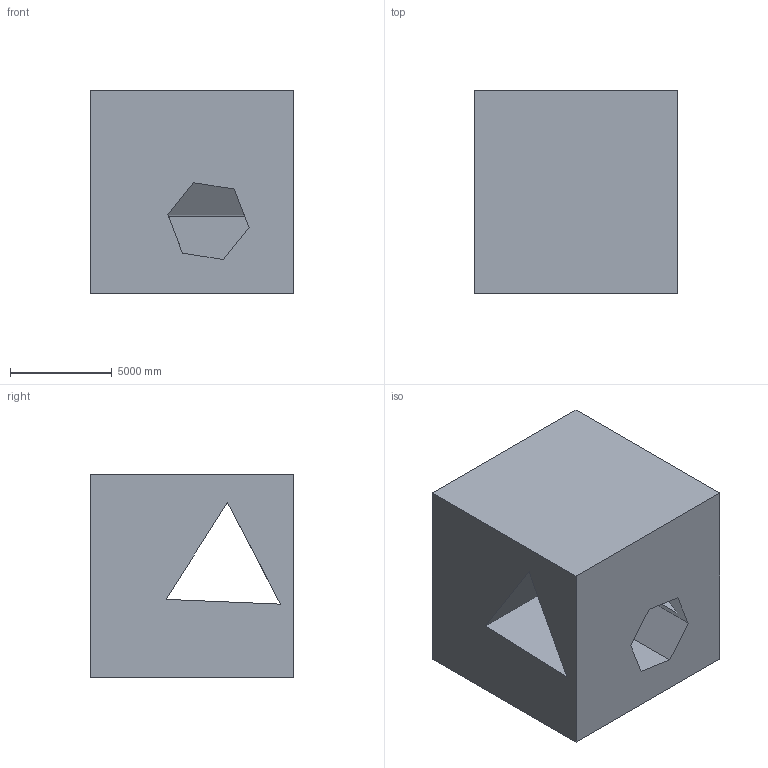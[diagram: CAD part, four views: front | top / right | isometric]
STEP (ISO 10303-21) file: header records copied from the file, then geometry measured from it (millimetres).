
FILE_DESCRIPTION (( 'STEP AP203' ), '1' );
FILE_NAME ('4.STEP', '2022-09-02T13:38:37', ( 'user' ), ( '' ), 'SwSTEP 2.0', 'SolidWorks 2021', '' );
FILE_SCHEMA (( 'CONFIG_CONTROL_DESIGN' ));
Length unit declared in the file: centimetre
Products named in the file (1): 4
Bounding box: 10000 x 10000 x 10000 mm (x, y, z)
Volume: 828118295894.6 mm3; surface area: 754028275.5 mm2
Topology: 1 solids, 1 shells, 16 faces, 45 edges, 30 vertices
Faces by surface type: plane 16
Entity records: 594 total; most frequent: CARTESIAN_POINT 92, ORIENTED_EDGE 90, DIRECTION 79, EDGE_CURVE 45, LINE 45, VECTOR 45, VERTEX_POINT 30, EDGE_LOOP 19
